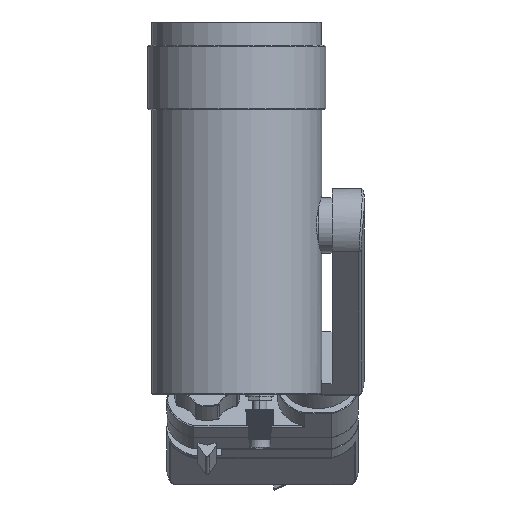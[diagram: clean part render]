
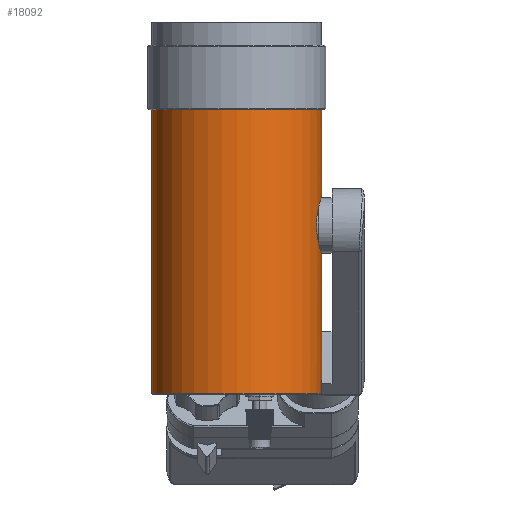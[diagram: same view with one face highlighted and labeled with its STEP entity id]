
A CAD part, front view. The second image highlights one B-rep face of the part: STEP entity #18092.
In plain terms, the highlighted cylindrical face has radius 36.75 mm (diameter 73.5 mm), a partial arc.
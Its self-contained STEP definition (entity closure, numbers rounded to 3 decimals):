
#6043=DIRECTION('',(0.,0.,-1.));
#6044=VECTOR('',#6043,46.5);
#6045=CARTESIAN_POINT('',(36.75,0.,51.5));
#6046=LINE('',#6045,#6044);
#6052=DIRECTION('',(0.,0.,-1.));
#6053=VECTOR('',#6052,131.7);
#6054=CARTESIAN_POINT('',(-36.75,0.,51.5));
#6055=LINE('',#6054,#6053);
#6061=DIRECTION('',(0.,0.,-1.));
#6062=VECTOR('',#6061,60.2);
#6063=CARTESIAN_POINT('',(36.75,0.,-20.));
#6064=LINE('',#6063,#6062);
#6073=CARTESIAN_POINT('',(36.75,0.,-20.));
#6074=CARTESIAN_POINT('',(36.75,-0.798,-20.));
#6075=CARTESIAN_POINT('',(36.7,-2.385,
-19.853));
#6076=CARTESIAN_POINT('',(36.458,-4.826,
-19.126));
#6077=CARTESIAN_POINT('',(36.09,-7.033,
-17.927));
#6078=CARTESIAN_POINT('',(35.682,-8.852,
-16.429));
#6079=CARTESIAN_POINT('',(35.252,-10.421,
-14.558));
#6080=CARTESIAN_POINT('',(34.854,-11.667,
-12.24));
#6081=CARTESIAN_POINT('',(34.606,-12.372,
-9.768));
#6082=CARTESIAN_POINT('',(34.533,-12.571,
-7.442));
#6083=CARTESIAN_POINT('',(34.617,-12.341,
-5.053));
#6084=CARTESIAN_POINT('',(34.875,-11.604,
-2.623));
#6085=CARTESIAN_POINT('',(35.259,-10.393,
-0.42));
#6086=CARTESIAN_POINT('',(35.662,-8.93,1.346));
#6087=CARTESIAN_POINT('',(36.078,-7.1,2.887));
#6088=CARTESIAN_POINT('',(36.453,-4.863,4.111));
#6089=CARTESIAN_POINT('',(36.698,-2.409,4.849));
#6090=CARTESIAN_POINT('',(36.75,-0.806,5.));
#6091=CARTESIAN_POINT('',(36.75,0.,5.));
#6093=CARTESIAN_POINT('',(0.,0.,-80.2));
#6094=DIRECTION('',(0.,0.,-1.));
#6095=DIRECTION('',(1.,0.,0.));
#6096=AXIS2_PLACEMENT_3D('',#6093,#6094,#6095);
#6098=CARTESIAN_POINT('',(0.,0.,51.5));
#6099=DIRECTION('',(0.,0.,-1.));
#6100=DIRECTION('',(1.,0.,0.));
#6101=AXIS2_PLACEMENT_3D('',#6098,#6099,#6100);
#7326=CARTESIAN_POINT('',(36.75,0.,51.5));
#7327=CARTESIAN_POINT('',(-36.75,0.,51.5));
#7328=VERTEX_POINT('',#7326);
#7329=VERTEX_POINT('',#7327);
#9180=CARTESIAN_POINT('',(36.75,0.,-80.2));
#9181=CARTESIAN_POINT('',(-36.75,0.,-80.2));
#9182=VERTEX_POINT('',#9180);
#9183=VERTEX_POINT('',#9181);
#9200=VERTEX_POINT('',#6073);
#9201=VERTEX_POINT('',#6091);
#18078=CARTESIAN_POINT('',(0.,0.,88.55));
#18079=DIRECTION('',(0.,0.,-1.));
#18080=DIRECTION('',(1.,0.,0.));
#18081=AXIS2_PLACEMENT_3D('',#18078,#18079,#18080);
#18082=CYLINDRICAL_SURFACE('',#18081,36.75);
#18083=ORIENTED_EDGE('',*,*,#18062,.F.);
#18084=ORIENTED_EDGE('',*,*,#18023,.T.);
#18085=ORIENTED_EDGE('',*,*,#17975,.T.);
#18086=ORIENTED_EDGE('',*,*,#18020,.F.);
#18088=ORIENTED_EDGE('',*,*,#18087,.F.);
#18089=ORIENTED_EDGE('',*,*,#18016,.T.);
#18090=EDGE_LOOP('',(#18083,#18084,#18085,#18086,#18088,#18089));
#18091=FACE_OUTER_BOUND('',#18090,.F.);
#6092=B_SPLINE_CURVE_WITH_KNOTS('',3,(#6073,#6074,#6075,#6076,#6077,#6078,#6079,
#6080,#6081,#6082,#6083,#6084,#6085,#6086,#6087,#6088,#6089,#6090,#6091),
.UNSPECIFIED.,.F.,.F.,(4,1,1,1,1,1,1,1,1,1,1,1,1,1,1,1,4),(0.,0.063,0.125,
0.188,0.25,0.313,0.375,0.438,0.5,0.563,0.625,0.688,
0.75,0.813,0.875,0.938,1.),.UNSPECIFIED.);
#6097=CIRCLE('',#6096,36.75);
#6102=CIRCLE('',#6101,36.75);
#17975=EDGE_CURVE('',#9182,#9183,#6097,.T.);
#18016=EDGE_CURVE('',#7328,#9201,#6046,.T.);
#18020=EDGE_CURVE('',#7329,#9183,#6055,.T.);
#18023=EDGE_CURVE('',#9200,#9182,#6064,.T.);
#18062=EDGE_CURVE('',#9200,#9201,#6092,.T.);
#18087=EDGE_CURVE('',#7328,#7329,#6102,.T.);
#18092=ADVANCED_FACE('',(#18091),#18082,.T.);
